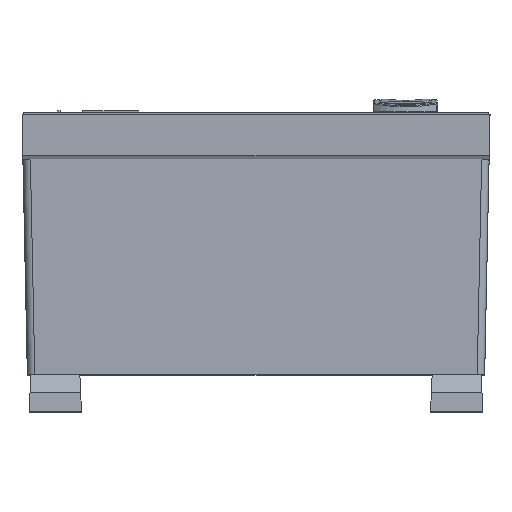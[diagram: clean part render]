
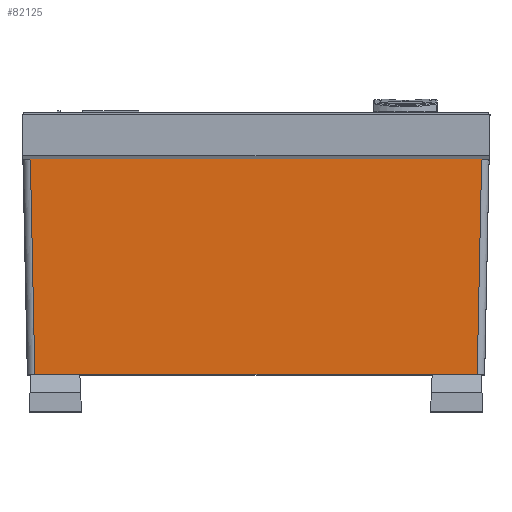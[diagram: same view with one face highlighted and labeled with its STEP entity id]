
A CAD part, top view. The second image highlights one B-rep face of the part: STEP entity #82125.
In plain terms, the highlighted planar face has unit normal (0, -0.014, 1).
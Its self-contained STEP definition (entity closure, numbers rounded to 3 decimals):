
#737 = DIRECTION ( 'NONE',  ( -1., 0., 0. ) ) ;
#1747 = DIRECTION ( 'NONE',  ( 0., 0.014, -1. ) ) ;
#7767 = CARTESIAN_POINT ( 'NONE',  ( -118.5, 0., 139. ) ) ;
#15813 = LINE ( 'NONE', #93755, #58197 ) ;
#16483 = VECTOR ( 'NONE', #161198, 1000. ) ;
#18159 = CARTESIAN_POINT ( 'NONE',  ( 200., 115.386, 140.654 ) ) ;
#28368 = VERTEX_POINT ( 'NONE', #7767 ) ;
#30128 = LINE ( 'NONE', #148744, #167944 ) ;
#30641 = EDGE_CURVE ( 'NONE', #112108, #28368, #113996, .T. ) ;
#36228 = VERTEX_POINT ( 'NONE', #109702 ) ;
#38679 = CARTESIAN_POINT ( 'NONE',  ( 200., 0., 139. ) ) ;
#39452 = EDGE_CURVE ( 'NONE', #112108, #36228, #30128, .T. ) ;
#40003 = DIRECTION ( 'NONE',  ( 1., 0., 0. ) ) ;
#44185 = ORIENTED_EDGE ( 'NONE', *, *, #30641, .T. ) ;
#48889 = ORIENTED_EDGE ( 'NONE', *, *, #177171, .T. ) ;
#48892 = PLANE ( 'NONE',  #65200 ) ;
#51467 = CARTESIAN_POINT ( 'NONE',  ( 118.5, 0., 139. ) ) ;
#58197 = VECTOR ( 'NONE', #189155, 1000. ) ;
#63318 = ORIENTED_EDGE ( 'NONE', *, *, #39452, .F. ) ;
#65200 = AXIS2_PLACEMENT_3D ( 'NONE', #18159, #1747, #737 ) ;
#78707 = FACE_OUTER_BOUND ( 'NONE', #109704, .T. ) ;
#82125 = ADVANCED_FACE ( 'NONE', ( #78707 ), #48892, .F. ) ;
#93755 = CARTESIAN_POINT ( 'NONE',  ( 118.581, 3.943, 139.057 ) ) ;
#98623 = CARTESIAN_POINT ( 'NONE',  ( -120.866, 114.972, 140.648 ) ) ;
#99234 = DIRECTION ( 'NONE',  ( 1., 0., 0. ) ) ;
#105738 = VECTOR ( 'NONE', #99234, 1000. ) ;
#109702 = CARTESIAN_POINT ( 'NONE',  ( 120.875, 115.386, 140.654 ) ) ;
#109704 = EDGE_LOOP ( 'NONE', ( #44185, #176307, #48889, #63318 ) ) ;
#112108 = VERTEX_POINT ( 'NONE', #193079 ) ;
#113996 = LINE ( 'NONE', #98623, #16483 ) ;
#133780 = EDGE_CURVE ( 'NONE', #28368, #184543, #147433, .T. ) ;
#147433 = LINE ( 'NONE', #38679, #105738 ) ;
#148744 = CARTESIAN_POINT ( 'NONE',  ( 200., 115.386, 140.654 ) ) ;
#161198 = DIRECTION ( 'NONE',  ( 0.021, -1., -0.014 ) ) ;
#167944 = VECTOR ( 'NONE', #40003, 1000. ) ;
#176307 = ORIENTED_EDGE ( 'NONE', *, *, #133780, .T. ) ;
#177171 = EDGE_CURVE ( 'NONE', #184543, #36228, #15813, .T. ) ;
#184543 = VERTEX_POINT ( 'NONE', #51467 ) ;
#189155 = DIRECTION ( 'NONE',  ( 0.021, 1., 0.014 ) ) ;
#193079 = CARTESIAN_POINT ( 'NONE',  ( -120.875, 115.386, 140.654 ) ) ;
